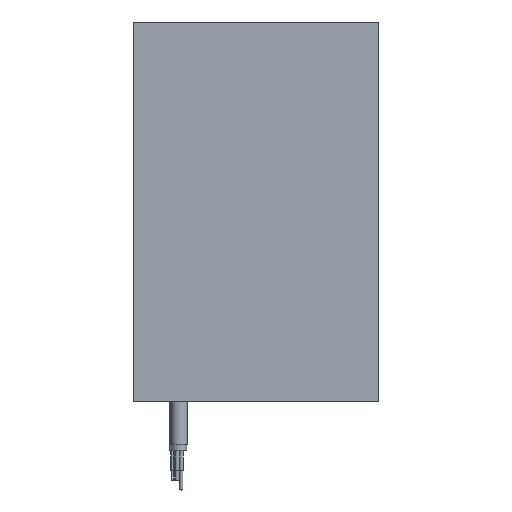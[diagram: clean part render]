
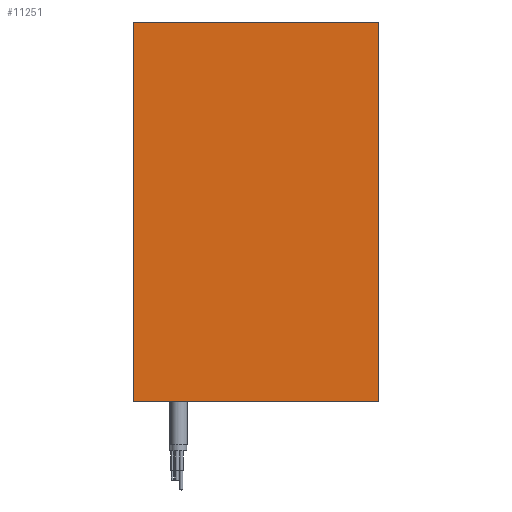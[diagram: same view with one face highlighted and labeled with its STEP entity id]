
A CAD part, top view. The second image highlights one B-rep face of the part: STEP entity #11251.
In plain terms, the highlighted planar face has unit normal (0, 0, 1).
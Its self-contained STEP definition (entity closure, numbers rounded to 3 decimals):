
#144 = PLANE ( 'NONE',  #8548 ) ;
#1229 = ORIENTED_EDGE ( 'NONE', *, *, #15733, .F. ) ;
#1653 = VERTEX_POINT ( 'NONE', #1770 ) ;
#1767 = VECTOR ( 'NONE', #6969, 1000. ) ;
#1770 = CARTESIAN_POINT ( 'NONE',  ( 18.569, 6.483, 209.524 ) ) ;
#1863 = CARTESIAN_POINT ( 'NONE',  ( 18.569, 200.483, 209.524 ) ) ;
#2037 = EDGE_CURVE ( 'NONE', #6034, #2695, #4558, .T. ) ;
#2695 = VERTEX_POINT ( 'NONE', #2983 ) ;
#2983 = CARTESIAN_POINT ( 'NONE',  ( 143.716, 200.483, 209.524 ) ) ;
#3441 = LINE ( 'NONE', #6048, #10544 ) ;
#3571 = DIRECTION ( 'NONE',  ( 1., 0., 0. ) ) ;
#3929 = VECTOR ( 'NONE', #6150, 1000. ) ;
#4394 = LINE ( 'NONE', #15774, #1767 ) ;
#4558 = LINE ( 'NONE', #7077, #15261 ) ;
#4716 = LINE ( 'NONE', #7400, #3929 ) ;
#5405 = DIRECTION ( 'NONE',  ( 0., 0., 1. ) ) ;
#6034 = VERTEX_POINT ( 'NONE', #1863 ) ;
#6048 = CARTESIAN_POINT ( 'NONE',  ( 18.569, 568.483, 209.524 ) ) ;
#6150 = DIRECTION ( 'NONE',  ( -1., 0., 0. ) ) ;
#6659 = CARTESIAN_POINT ( 'NONE',  ( 19.443, 568.483, 209.524 ) ) ;
#6969 = DIRECTION ( 'NONE',  ( 0., 1., 0. ) ) ;
#7077 = CARTESIAN_POINT ( 'NONE',  ( -88.69, 200.483, 209.524 ) ) ;
#7400 = CARTESIAN_POINT ( 'NONE',  ( 19.443, 6.483, 209.524 ) ) ;
#7528 = VERTEX_POINT ( 'NONE', #15875 ) ;
#8433 = ORIENTED_EDGE ( 'NONE', *, *, #12826, .F. ) ;
#8548 = AXIS2_PLACEMENT_3D ( 'NONE', #6659, #5405, #10155 ) ;
#9741 = ORIENTED_EDGE ( 'NONE', *, *, #12713, .T. ) ;
#10155 = DIRECTION ( 'NONE',  ( 0., -1., 0. ) ) ;
#10544 = VECTOR ( 'NONE', #11129, 1000. ) ;
#11129 = DIRECTION ( 'NONE',  ( 0., 1., 0. ) ) ;
#11251 = ADVANCED_FACE ( 'NONE', ( #16543 ), #144, .T. ) ;
#12713 = EDGE_CURVE ( 'NONE', #7528, #2695, #4394, .T. ) ;
#12826 = EDGE_CURVE ( 'NONE', #7528, #1653, #4716, .T. ) ;
#13401 = ORIENTED_EDGE ( 'NONE', *, *, #2037, .F. ) ;
#15261 = VECTOR ( 'NONE', #3571, 1000. ) ;
#15733 = EDGE_CURVE ( 'NONE', #1653, #6034, #3441, .T. ) ;
#15774 = CARTESIAN_POINT ( 'NONE',  ( 143.716, 568.483, 209.524 ) ) ;
#15875 = CARTESIAN_POINT ( 'NONE',  ( 143.716, 6.483, 209.524 ) ) ;
#16365 = EDGE_LOOP ( 'NONE', ( #13401, #1229, #8433, #9741 ) ) ;
#16543 = FACE_OUTER_BOUND ( 'NONE', #16365, .T. ) ;
